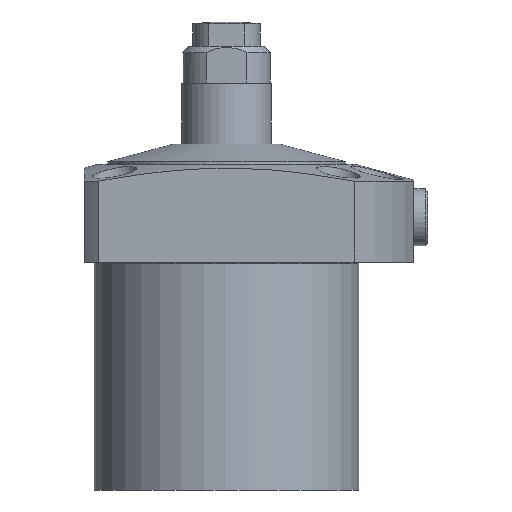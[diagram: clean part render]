
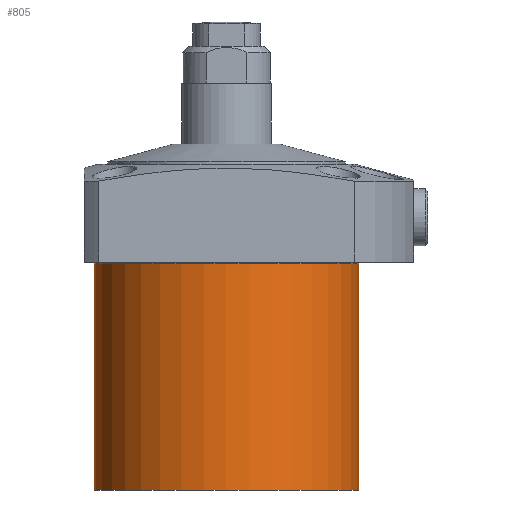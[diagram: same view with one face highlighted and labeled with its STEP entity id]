
A CAD part, front view. The second image highlights one B-rep face of the part: STEP entity #805.
In plain terms, the highlighted cylindrical face has radius 32.5 mm (diameter 65 mm), a partial arc.
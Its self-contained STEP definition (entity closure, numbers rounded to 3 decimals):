
#706=CYLINDRICAL_SURFACE('',#2583,32.5);
#805=ADVANCED_FACE('',(#935),#706,.T.);
#935=FACE_OUTER_BOUND('',#1054,.T.);
#1054=EDGE_LOOP('',(#1719,#1720,#1721,#1722));
#1205=LINE('',#3750,#1329);
#1206=LINE('',#3752,#1330);
#1329=VECTOR('',#3028,1.);
#1330=VECTOR('',#3031,1.);
#1719=ORIENTED_EDGE('',*,*,#2219,.F.);
#1720=ORIENTED_EDGE('',*,*,#2267,.T.);
#1721=ORIENTED_EDGE('',*,*,#2221,.T.);
#1722=ORIENTED_EDGE('',*,*,#2214,.T.);
#2006=VERTEX_POINT('',#3739);
#2007=VERTEX_POINT('',#3740);
#2010=VERTEX_POINT('',#3748);
#2011=VERTEX_POINT('',#3749);
#2214=EDGE_CURVE('',#2006,#2007,#2363,.T.);
#2219=EDGE_CURVE('',#2011,#2007,#1205,.T.);
#2221=EDGE_CURVE('',#2010,#2006,#1206,.T.);
#2267=EDGE_CURVE('',#2011,#2010,#2385,.T.);
#2363=CIRCLE('',#2545,32.5);
#2385=CIRCLE('',#2581,32.5);
#2545=AXIS2_PLACEMENT_3D('',#3738,#3016,#3017);
#2581=AXIS2_PLACEMENT_3D('',#3964,#3106,#3107);
#2583=AXIS2_PLACEMENT_3D('',#3966,#3110,#3111);
#3016=DIRECTION('',(0.,0.,-1.));
#3017=DIRECTION('',(-1.,0.,0.));
#3028=DIRECTION('',(0.,0.,1.));
#3031=DIRECTION('',(0.,0.,1.));
#3106=DIRECTION('',(0.,0.,1.));
#3107=DIRECTION('',(1.,0.,0.));
#3110=DIRECTION('',(0.,0.,1.));
#3111=DIRECTION('',(-1.,0.,0.));
#3738=CARTESIAN_POINT('',(0.,0.,-0.4));
#3739=CARTESIAN_POINT('',(32.5,0.,-0.4));
#3740=CARTESIAN_POINT('',(-32.5,0.,-0.4));
#3748=CARTESIAN_POINT('',(32.5,0.,-56.));
#3749=CARTESIAN_POINT('',(-32.5,0.,-56.));
#3750=CARTESIAN_POINT('',(-32.5,0.,100.));
#3752=CARTESIAN_POINT('',(32.5,0.,100.));
#3964=CARTESIAN_POINT('',(0.,0.,-56.));
#3966=CARTESIAN_POINT('',(0.,0.,100.));
